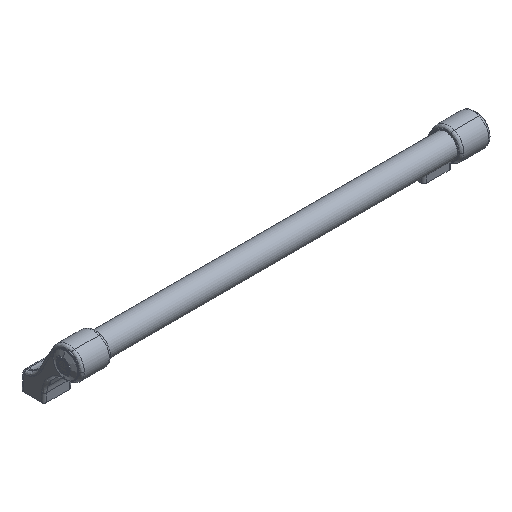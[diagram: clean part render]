
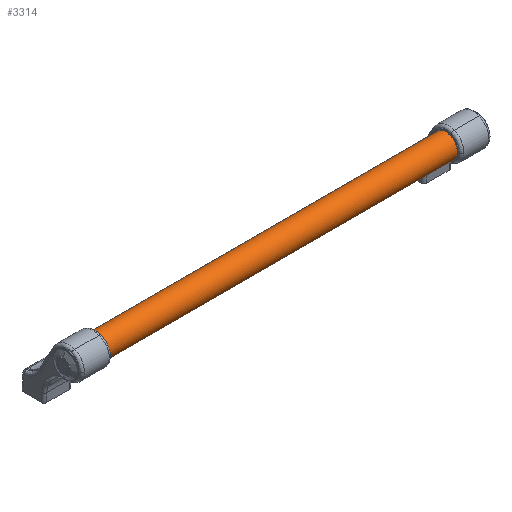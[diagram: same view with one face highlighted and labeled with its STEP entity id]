
A CAD part, isometric view. The second image highlights one B-rep face of the part: STEP entity #3314.
In plain terms, the highlighted cylindrical face has radius 12.5 mm (diameter 25 mm), a full revolution.
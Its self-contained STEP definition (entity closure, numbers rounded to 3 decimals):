
#651 = EDGE_LOOP ( 'NONE', ( #45002 ) ) ;
#1138 = EDGE_LOOP ( 'NONE', ( #45868 ) ) ;
#1560 = EDGE_CURVE ( 'NONE', #10289, #10289, #11640, .T. ) ;
#2325 = CARTESIAN_POINT ( 'NONE',  ( 12.5, 0., 200. ) ) ;
#3314 = ADVANCED_FACE ( 'NONE', ( #36282, #16449 ), #11978, .T. ) ;
#4620 = CARTESIAN_POINT ( 'NONE',  ( 12.5, 0., -200. ) ) ;
#10289 = VERTEX_POINT ( 'NONE', #2325 ) ;
#11640 = CIRCLE ( 'NONE', #22622, 12.5 ) ;
#11891 = AXIS2_PLACEMENT_3D ( 'NONE', #25334, #13947, #41739 ) ;
#11978 = CYLINDRICAL_SURFACE ( 'NONE', #33651, 12.5 ) ;
#13027 = DIRECTION ( 'NONE',  ( 0., 0., -1. ) ) ;
#13947 = DIRECTION ( 'NONE',  ( 0., 0., 1. ) ) ;
#16449 = FACE_OUTER_BOUND ( 'NONE', #1138, .T. ) ;
#18424 = DIRECTION ( 'NONE',  ( 0., 0., 1. ) ) ;
#22622 = AXIS2_PLACEMENT_3D ( 'NONE', #27144, #18424, #43287 ) ;
#25257 = VERTEX_POINT ( 'NONE', #4620 ) ;
#25334 = CARTESIAN_POINT ( 'NONE',  ( 0., 0., -200. ) ) ;
#27144 = CARTESIAN_POINT ( 'NONE',  ( 0., 0., 200. ) ) ;
#28101 = CARTESIAN_POINT ( 'NONE',  ( 0., 0., 200. ) ) ;
#28900 = DIRECTION ( 'NONE',  ( -1., 0., 0. ) ) ;
#33651 = AXIS2_PLACEMENT_3D ( 'NONE', #28101, #13027, #28900 ) ;
#34420 = EDGE_CURVE ( 'NONE', #25257, #25257, #49875, .T. ) ;
#36282 = FACE_OUTER_BOUND ( 'NONE', #651, .T. ) ;
#41739 = DIRECTION ( 'NONE',  ( 1., 0., 0. ) ) ;
#43287 = DIRECTION ( 'NONE',  ( 1., 0., 0. ) ) ;
#45002 = ORIENTED_EDGE ( 'NONE', *, *, #1560, .F. ) ;
#45868 = ORIENTED_EDGE ( 'NONE', *, *, #34420, .T. ) ;
#49875 = CIRCLE ( 'NONE', #11891, 12.5 ) ;
